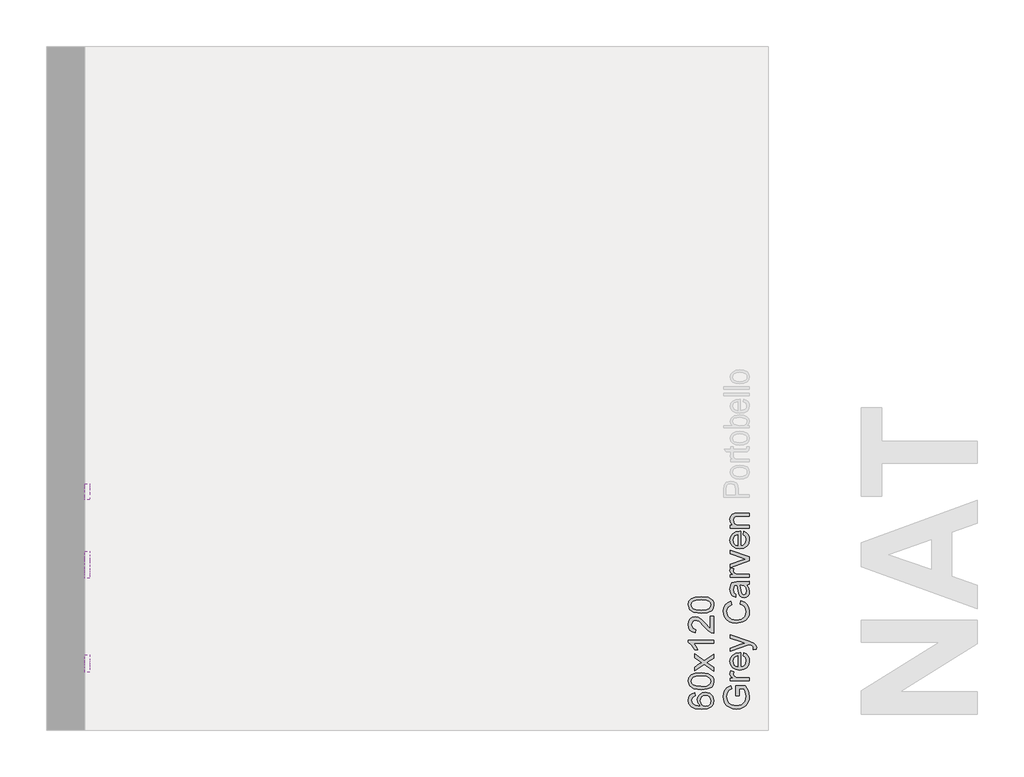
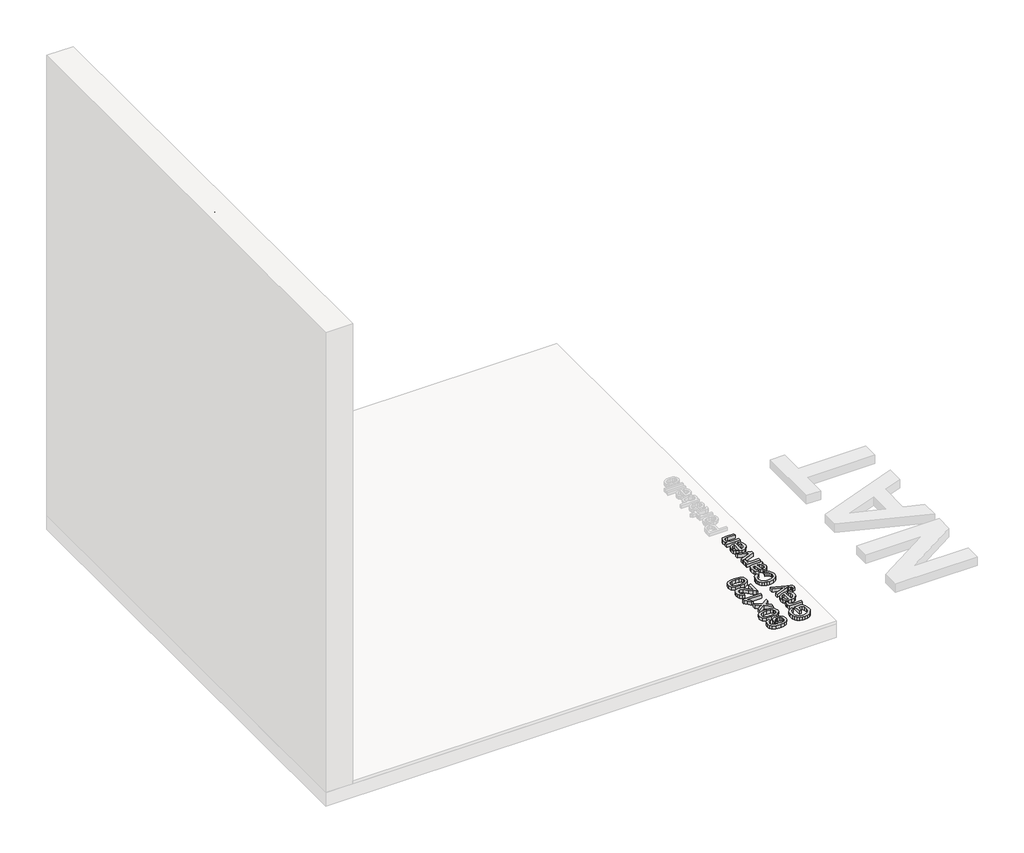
# One storey, part 7 of 12: 5 proxies.
"""IFC4 building model written with IfcOpenShell, lengths in millimetres."""

from ifc_helpers import new_model, si_unit, frame, origin, origin_with_axes, place, context, project, spatial, polyline, outline, extrude, element, save

model = new_model("IFC4")

# Units and contexts
model_context = context("Model", 3, world=origin())
ifc_project = project(units=[si_unit("LENGTHUNIT", "METRE", prefix="MILLI")], contexts=[model_context])

# Site, building, storey
site = spatial("IfcSite", under=ifc_project)
building = spatial("IfcBuilding", under=site)
storey = spatial("IfcBuildingStorey", under=building, Name="PORTOBELLO - SHOWROOM", Elevation=0.0)

# Proxies
placement = place(None, origin())
element("IfcBuildingElementProxy", 1, Name="10mm Arial", ObjectType="10mm Arial", at=placement, inside=storey, context=model_context, shape_type="SweptSolid", body=[
    extrude(outline(polyline([(-16124.8606928, 10089.718781), (-16137.4177315, 10089.718781), (-16137.4177315, 10130.529157), (-16099.8692426, 10130.529157), (-16088.0234423, 10110.3814864), (-16084.0503168, 10089.0811189), (-16085.6291437, 10074.9943042), (-16090.3656244, 10062.2625215), (-16098.0942119, 10051.6859141), (-16108.6493595, 10044.0646254), (-16121.3106315, 10039.4569034), (-16135.3575924, 10037.9209961), (-16149.5057208, 10039.4507721), (-16162.6666991, 10044.0401), (-16173.7062247, 10051.4989074), (-16181.4899946, 10061.6371221), (-16186.1069136, 10073.9856944), (-16187.6458866, 10088.0755748), (-16184.0774313, 10107.7204733), (-16174.1446174, 10121.4915227), (-16157.5286139, 10129.0821545), (-16154.2667269, 10117.5061344), (-16165.8795352, 10111.779438), (-16172.5749875, 10101.9937769), (-16175.0888478, 10087.8793711), (-16172.3787838, 10071.8029279), (-16165.2663986, 10060.8645699), (-16155.5911021, 10054.4021095), (-16135.8726272, 10050.4780349), (-16113.9836484, 10055.1991871), (-16100.8870494, 10068.9334483), (-16096.6073555, 10088.0755748), (-16099.8324544, 10105.255664), (-16106.7118477, 10117.9721183), (-16124.8606928, 10117.9721183), (-16124.8606928, 10089.718781)])), origin_with_axes(), (0.0, 0.0, 1.0), 20.0),
    extrude(outline(polyline([(-16085.6199466, 10149.3647152), (-16159.3925494, 10149.3647152), (-16159.3925494, 10160.3521241), (-16148.4787169, 10160.3521241), (-16158.5341581, 10168.1512224), (-16160.9621792, 10175.9993716), (-16157.0871555, 10188.6054613), (-16145.8299665, 10184.4116066), (-16148.4051405, 10175.5824387), (-16145.9280684, 10168.4823162), (-16139.0609378, 10163.9573677), (-16124.3947089, 10161.9217539), (-16085.6199466, 10161.9217539), (-16085.6199466, 10149.3647152)])), origin_with_axes(), (0.0, 0.0, 1.0), 20.0),
    extrude(outline(polyline([(-16107.5947645, 10248.1042427), (-16106.0251346, 10260.4160268), (-16096.748377, 10255.9799831), (-16089.8138014, 10248.9013203), (-16085.4911879, 10239.3394541), (-16084.0503168, 10227.4538), (-16086.5365859, 10212.7201261), (-16093.9953934, 10201.3832293), (-16105.9423612, 10194.1543481), (-16121.8931113, 10191.744721), (-16138.3803561, 10194.1788736), (-16150.7105343, 10201.4813312), (-16158.399268, 10212.6649438), (-16160.9621792, 10226.7425615), (-16158.4053994, 10240.3817865), (-16150.7350598, 10251.2802906), (-16138.429407, 10258.4263983), (-16121.9666877, 10260.8084343), (-16118.5821734, 10260.7348579), (-16118.5821734, 10204.3017598), (-16109.1827884, 10206.4753292), (-16102.2727383, 10211.5245096), (-16098.0237012, 10218.8116388), (-16096.6073555, 10227.6990547), (-16099.2315804, 10240.0108388), (-16107.5947645, 10248.1042427)]), holes=[polyline([(-16131.1392121, 10204.3017598), (-16131.1392121, 10248.2513955), (-16142.5190285, 10243.2236749), (-16146.9336125, 10235.9028232), (-16148.4051405, 10226.6935106), (-16143.7085137, 10211.230204), (-16138.2178749, 10206.3649646), (-16131.1392121, 10204.3017598)])]), origin_with_axes(), (0.0, 0.0, 1.0), 20.0),
    extrude(outline(polyline([(-16057.3666094, 10273.365473), (-16069.4576643, 10271.7958432), (-16068.3540183, 10278.1724644), (-16069.7397072, 10284.1321527), (-16073.6024681, 10287.7864472), (-16082.8485689, 10291.2200125), (-16085.8897267, 10292.2010312), (-16159.3925494, 10265.5173238), (-16159.3925494, 10278.7365501), (-16118.4104951, 10292.9122697), (-16102.0274836, 10297.8418884), (-16116.5220342, 10302.7715072), (-16159.3925494, 10317.3151087), (-16159.3925494, 10330.4362332), (-16083.854113, 10304.7580699), (-16067.4711015, 10298.0871431), (-16058.6174082, 10290.8030796), (-16055.7969795, 10281.041944), (-16057.3666094, 10273.365473)])), origin_with_axes(), (0.0, 0.0, 1.0), 20.0),
    extrude(outline(polyline([(-16121.3290256, 10452.3032755), (-16118.0916641, 10464.8603142), (-16103.4591577, 10459.0661728), (-16092.7691201, 10449.9733562), (-16086.2300176, 10438.0294541), (-16084.0503168, 10423.6820562), (-16085.6996544, 10409.1169949), (-16090.6476672, 10397.5501719), (-16098.722677, 10388.6842158), (-16109.7530055, 10382.2217554), (-16136.6083911, 10376.9610429), (-16151.2562259, 10378.4478993), (-16163.9052352, 10382.9084684), (-16174.1538144, 10390.1097585), (-16181.6003592, 10399.8187775), (-16186.1345047, 10411.3334839), (-16187.6458866, 10423.9518364), (-16185.6899807, 10437.71982), (-16179.8222628, 10449.1027021), (-16170.4044838, 10457.7448633), (-16157.7983941, 10463.2906844), (-16154.8062872, 10450.7336456), (-16170.2450682, 10440.4329498), (-16175.0888478, 10423.4613271), (-16169.7177707, 10403.8164285), (-16155.2967965, 10392.718655), (-16136.6329166, 10389.5180816), (-16115.0014553, 10393.3072662), (-16101.181355, 10405.1040155), (-16096.6073555, 10422.4312575), (-16098.1647226, 10432.9128286), (-16102.836824, 10441.6469603), (-16110.5746086, 10448.2412451), (-16121.3290256, 10452.3032755)])), origin_with_axes(), (0.0, 0.0, 1.0), 20.0),
    extrude(outline(polyline([(-16095.0377257, 10527.6455081), (-16086.5273889, 10515.468614), (-16084.0503168, 10502.0163958), (-16085.5402388, 10491.5225618), (-16090.0100051, 10483.7817115), (-16096.7974279, 10479.0084426), (-16105.2403197, 10477.417353), (-16115.1731336, 10479.8208487), (-16122.3836207, 10486.1361563), (-16126.503899, 10494.928536), (-16128.3923599, 10505.7933176), (-16132.708842, 10527.5719317), (-16135.5047452, 10527.6455081), (-16144.7753714, 10524.1874173), (-16148.4051405, 10510.3060034), (-16145.989382, 10497.6018118), (-16137.4177315, 10491.5440216), (-16138.9873614, 10478.9869829), (-16151.2500946, 10484.4193737), (-16158.4360562, 10495.3577316), (-16160.9621792, 10511.9246842), (-16158.7303618, 10527.142736), (-16153.1262927, 10535.738912), (-16144.6036932, 10539.5894102), (-16133.6162843, 10540.2025469), (-16117.9935622, 10540.2025469), (-16096.1781599, 10540.840209), (-16085.6199466, 10543.3418065), (-16085.6199466, 10530.7847678), (-16095.0377257, 10527.6455081)]), holes=[polyline([(-16120.1518032, 10527.6455081), (-16116.301305, 10507.3874729), (-16114.2656913, 10496.584005), (-16110.9547533, 10491.6911744), (-16106.1232365, 10489.9743918), (-16099.3296823, 10493.7145254), (-16096.6073555, 10504.6896716), (-16099.6117252, 10517.3938632), (-16106.8835259, 10525.5853689), (-16116.5956106, 10527.5719317), (-16120.1518032, 10527.6455081)])]), origin_with_axes(), (0.0, 0.0, 1.0), 20.0),
    extrude(outline(polyline([(-16085.6199466, 10557.4684752), (-16159.3925494, 10557.4684752), (-16159.3925494, 10568.4558841), (-16148.4787169, 10568.4558841), (-16158.5341581, 10576.2549824), (-16160.9621792, 10584.1031316), (-16157.0871555, 10596.7092213), (-16145.8299665, 10592.5153666), (-16148.4051405, 10583.6861987), (-16145.9280684, 10576.5860762), (-16139.0609378, 10572.0611276), (-16124.3947089, 10570.0255139), (-16085.6199466, 10570.0255139), (-16085.6199466, 10557.4684752)])), origin_with_axes(), (0.0, 0.0, 1.0), 20.0),
    extrude(outline(polyline([(-16085.6199466, 10622.7062156), (-16159.3925494, 10596.7092213), (-16159.3925494, 10609.9774986), (-16115.197659, 10625.722848), (-16100.3352264, 10630.456263), (-16114.3637932, 10635.0915761), (-16159.3925494, 10650.9105019), (-16159.3925494, 10664.2033047), (-16085.6199466, 10638.5741924), (-16085.6199466, 10622.7062156)])), origin_with_axes(), (0.0, 0.0, 1.0), 20.0),
    extrude(outline(polyline([(-16107.5947645, 10726.8413457), (-16106.0251346, 10739.1531298), (-16096.748377, 10734.7170861), (-16089.8138014, 10727.6384234), (-16085.4911879, 10718.0765572), (-16084.0503168, 10706.1909031), (-16086.5365859, 10691.4572292), (-16093.9953934, 10680.1203324), (-16105.9423612, 10672.8914511), (-16121.8931113, 10670.4818241), (-16138.3803561, 10672.9159766), (-16150.7105343, 10680.2184342), (-16158.399268, 10691.4020469), (-16160.9621792, 10705.4796646), (-16158.4053994, 10719.1188895), (-16150.7350598, 10730.0173936), (-16138.429407, 10737.1635014), (-16121.9666877, 10739.5455373), (-16118.5821734, 10739.4719609), (-16118.5821734, 10683.0388628), (-16109.1827884, 10685.2124323), (-16102.2727383, 10690.2616127), (-16098.0237012, 10697.5487419), (-16096.6073555, 10706.4361577), (-16099.2315804, 10718.7479418), (-16107.5947645, 10726.8413457)]), holes=[polyline([(-16131.1392121, 10683.0388628), (-16131.1392121, 10726.9884985), (-16142.5190285, 10721.9607779), (-16146.9336125, 10714.6399262), (-16148.4051405, 10705.4306136), (-16143.7085137, 10689.9673071), (-16138.2178749, 10685.1020677), (-16131.1392121, 10683.0388628)])]), origin_with_axes(), (0.0, 0.0, 1.0), 20.0),
    extrude(outline(polyline([(-16085.6199466, 10752.1025761), (-16159.3925494, 10752.1025761), (-16159.3925494, 10764.6596148), (-16149.0918535, 10764.6596148), (-16157.9945978, 10774.2613349), (-16160.9621792, 10787.3701967), (-16158.5709463, 10799.2282597), (-16152.2924269, 10807.3216636), (-16143.0585888, 10811.0863226), (-16130.918483, 10811.7485102), (-16085.6199466, 10811.7485102), (-16085.6199466, 10799.1914715), (-16129.2262258, 10799.1914715), (-16140.336262, 10797.7444689), (-16146.2101112, 10792.6309092), (-16148.4051405, 10784.0102078), (-16143.4755217, 10770.3863112), (-16136.3324796, 10766.0912889), (-16124.7625909, 10764.6596148), (-16085.6199466, 10764.6596148), (-16085.6199466, 10752.1025761)])), origin_with_axes(), (0.0, 0.0, 1.0), 20.0),
])
element("IfcBuildingElementProxy", 2, Name="10mm Arial", ObjectType="10mm Arial", at=placement, inside=storey, context=model_context, shape_type="SweptSolid", body=[
    extrude(outline(polyline([(10086.3617789, 2555.4303365), (10086.3617789, 2567.9873753), (10127.1721549, 2567.9873753), (10127.1721549, 2530.4388863), (10107.0244843, 2518.593086), (10085.7241168, 2514.6199605), (10071.6373021, 2516.1987874), (10058.9055194, 2520.9352681), (10048.328912, 2528.6638557), (10040.7076233, 2539.2190032), (10036.0999014, 2551.8802752), (10034.563994, 2565.9272361), (10036.09377, 2580.0753645), (10040.6830979, 2593.2363429), (10048.1419053, 2604.2758684), (10058.28012, 2612.0596383), (10070.6286923, 2616.6765573), (10084.7185727, 2618.2155303), (10104.3634712, 2614.647075), (10118.1345206, 2604.7142611), (10125.7251524, 2588.0982577), (10114.1491323, 2584.8363706), (10108.4224359, 2596.449179), (10098.6367748, 2603.1446313), (10084.522369, 2605.6584916), (10068.4459258, 2602.9484275), (10057.5075678, 2595.8360423), (10051.0451074, 2586.1607458), (10047.1210328, 2566.4422709), (10051.8421851, 2544.5532922), (10065.5764462, 2531.4566931), (10084.7185727, 2527.1769993), (10101.8986619, 2530.4020981), (10114.6151162, 2537.2814914), (10114.6151162, 2555.4303365), (10086.3617789, 2555.4303365)])), frame((-18710.0482305, 0.0, 0.0), z_axis=(1.0, 0.0, 0.0), x_axis=(0.0, 1.0, 0.0)), (0.0, 0.0, 1.0), 20.0),
    extrude(outline(polyline([(10146.0077131, 2516.1895903), (10146.0077131, 2589.9621931), (10156.995122, 2589.9621931), (10156.995122, 2579.0483606), (10164.7942203, 2589.1038018), (10172.6423695, 2591.531823), (10185.2484592, 2587.6567993), (10181.0546045, 2576.3996102), (10172.2254366, 2578.9747842), (10165.1253141, 2576.4977121), (10160.6003656, 2569.6305815), (10158.5647519, 2554.9643526), (10158.5647519, 2516.1895903), (10146.0077131, 2516.1895903)])), frame((-18710.0482305, 0.0, 0.0), z_axis=(1.0, 0.0, 0.0), x_axis=(0.0, 1.0, 0.0)), (0.0, 0.0, 1.0), 20.0),
    extrude(outline(polyline([(10244.7472406, 2538.1644082), (10257.0590247, 2536.5947783), (10252.622981, 2527.3180207), (10245.5443183, 2520.3834451), (10235.9824521, 2516.0608316), (10224.0967979, 2514.6199605), (10209.363124, 2517.1062296), (10198.0262272, 2524.5650371), (10190.797346, 2536.5120049), (10188.3877189, 2552.4627551), (10190.8218715, 2568.9499998), (10198.1243291, 2581.280178), (10209.3079417, 2588.9689117), (10223.3855594, 2591.531823), (10237.0247844, 2588.9750431), (10247.9232885, 2581.3047035), (10255.0693962, 2568.9990508), (10257.4514322, 2552.5363315), (10257.3778558, 2549.1518171), (10200.9447577, 2549.1518171), (10203.1183272, 2539.7524321), (10208.1675075, 2532.842382), (10215.4546367, 2528.5933449), (10224.3420526, 2527.1769993), (10236.6538367, 2529.8012242), (10244.7472406, 2538.1644082)]), holes=[polyline([(10200.9447577, 2561.7088559), (10244.8943934, 2561.7088559), (10239.8666728, 2573.0886723), (10232.5458211, 2577.5032562), (10223.3365085, 2578.9747842), (10207.8732019, 2574.2781574), (10203.0079626, 2568.7875186), (10200.9447577, 2561.7088559)])]), frame((-18710.0482305, 0.0, 0.0), z_axis=(1.0, 0.0, 0.0), x_axis=(0.0, 1.0, 0.0)), (0.0, 0.0, 1.0), 20.0),
    extrude(outline(polyline([(10270.0084709, 2487.9362531), (10268.4388411, 2500.027308), (10274.8154623, 2498.923662), (10280.7751507, 2500.3093509), (10284.4294451, 2504.1721118), (10287.8630104, 2513.4182126), (10288.8440291, 2516.4593705), (10262.1603217, 2589.9621931), (10275.3795481, 2589.9621931), (10289.5552676, 2548.9801388), (10294.4848863, 2532.5971273), (10299.4145051, 2547.0916779), (10313.9581066, 2589.9621931), (10327.0792311, 2589.9621931), (10301.4010679, 2514.4237568), (10294.730141, 2498.0407452), (10287.4460775, 2489.1870519), (10277.6849419, 2486.3666233), (10270.0084709, 2487.9362531)])), frame((-18710.0482305, 0.0, 0.0), z_axis=(1.0, 0.0, 0.0), x_axis=(0.0, 1.0, 0.0)), (0.0, 0.0, 1.0), 20.0),
    extrude(outline(polyline([(10448.9462734, 2551.8986693), (10461.5033122, 2548.6613078), (10455.7091707, 2534.0288014), (10446.6163541, 2523.3387638), (10434.672452, 2516.7996613), (10420.3250542, 2514.6199605), (10405.7599928, 2516.2692981), (10394.1931698, 2521.2173109), (10385.3272137, 2529.2923207), (10378.8647533, 2540.3226492), (10373.6040408, 2567.1780349), (10375.0908972, 2581.8258696), (10379.5514664, 2594.4748789), (10386.7527564, 2604.7234582), (10396.4617754, 2612.1700029), (10407.9764819, 2616.7041485), (10420.5948343, 2618.2155303), (10434.362818, 2616.2596244), (10445.7457, 2610.3919066), (10454.3878612, 2600.9741275), (10459.9336823, 2588.3680378), (10447.3766435, 2585.3759309), (10437.0759477, 2600.814712), (10420.104325, 2605.6584916), (10400.4594264, 2600.2874144), (10389.3616529, 2585.8664402), (10386.1610795, 2567.2025603), (10389.9502641, 2545.571099), (10401.7470134, 2531.7509987), (10419.0742554, 2527.1769993), (10429.5558266, 2528.7343664), (10438.2899583, 2533.4064677), (10444.884243, 2541.1442523), (10448.9462734, 2551.8986693)])), frame((-18710.0482305, 0.0, 0.0), z_axis=(1.0, 0.0, 0.0), x_axis=(0.0, 1.0, 0.0)), (0.0, 0.0, 1.0), 20.0),
    extrude(outline(polyline([(10524.288506, 2525.6073694), (10512.111612, 2517.0970326), (10498.6593937, 2514.6199605), (10488.1655598, 2516.1098826), (10480.4247094, 2520.5796488), (10475.6514406, 2527.3670716), (10474.0603509, 2535.8099634), (10476.4638466, 2545.7427773), (10482.7791542, 2552.9532644), (10491.5715339, 2557.0735427), (10502.4363155, 2558.9620036), (10524.2149296, 2563.2784857), (10524.288506, 2566.0743889), (10520.8304152, 2575.3450152), (10506.9490013, 2578.9747842), (10494.2448097, 2576.5590258), (10488.1870195, 2567.9873753), (10475.6299808, 2569.5570051), (10481.0623716, 2581.8197383), (10492.0007296, 2589.0056999), (10508.5676821, 2591.531823), (10523.7857339, 2589.3000055), (10532.3819099, 2583.6959365), (10536.2324081, 2575.1733369), (10536.8455448, 2564.185928), (10536.8455448, 2548.5632059), (10537.4832069, 2526.7478036), (10539.9848045, 2516.1895903), (10527.4277657, 2516.1895903), (10524.288506, 2525.6073694)]), holes=[polyline([(10524.288506, 2550.721447), (10504.0304708, 2546.8709487), (10493.2270029, 2544.835335), (10488.3341723, 2541.5243971), (10486.6173897, 2536.6928802), (10490.3575233, 2529.899326), (10501.3326695, 2527.1769993), (10514.0368611, 2530.1813689), (10522.2283668, 2537.4531697), (10524.2149296, 2547.1652543), (10524.288506, 2550.721447)])]), frame((-18710.0482305, 0.0, 0.0), z_axis=(1.0, 0.0, 0.0), x_axis=(0.0, 1.0, 0.0)), (0.0, 0.0, 1.0), 20.0),
    extrude(outline(polyline([(10554.1114731, 2516.1895903), (10554.1114731, 2589.9621931), (10565.098882, 2589.9621931), (10565.098882, 2579.0483606), (10572.8979803, 2589.1038018), (10580.7461295, 2591.531823), (10593.3522192, 2587.6567993), (10589.1583645, 2576.3996102), (10580.3291966, 2578.9747842), (10573.2290741, 2576.4977121), (10568.7041256, 2569.6305815), (10566.6685118, 2554.9643526), (10566.6685118, 2516.1895903), (10554.1114731, 2516.1895903)])), frame((-18710.0482305, 0.0, 0.0), z_axis=(1.0, 0.0, 0.0), x_axis=(0.0, 1.0, 0.0)), (0.0, 0.0, 1.0), 20.0),
    extrude(outline(polyline([(10619.3492136, 2516.1895903), (10593.3522192, 2589.9621931), (10606.6204965, 2589.9621931), (10622.3658459, 2545.7673028), (10627.0992609, 2530.9048701), (10631.7345741, 2544.9334369), (10647.5534999, 2589.9621931), (10660.8463026, 2589.9621931), (10635.2171903, 2516.1895903), (10619.3492136, 2516.1895903)])), frame((-18710.0482305, 0.0, 0.0), z_axis=(1.0, 0.0, 0.0), x_axis=(0.0, 1.0, 0.0)), (0.0, 0.0, 1.0), 20.0),
    extrude(outline(polyline([(10723.4843437, 2538.1644082), (10735.7961278, 2536.5947783), (10731.360084, 2527.3180207), (10724.2814213, 2520.3834451), (10714.7195551, 2516.0608316), (10702.833901, 2514.6199605), (10688.1002271, 2517.1062296), (10676.7633303, 2524.5650371), (10669.5344491, 2536.5120049), (10667.124822, 2552.4627551), (10669.5589745, 2568.9499998), (10676.8614321, 2581.280178), (10688.0450448, 2588.9689117), (10702.1226625, 2591.531823), (10715.7618874, 2588.9750431), (10726.6603915, 2581.3047035), (10733.8064993, 2568.9990508), (10736.1885352, 2552.5363315), (10736.1149588, 2549.1518171), (10679.6818608, 2549.1518171), (10681.8554302, 2539.7524321), (10686.9046106, 2532.842382), (10694.1917398, 2528.5933449), (10703.0791557, 2527.1769993), (10715.3909398, 2529.8012242), (10723.4843437, 2538.1644082)]), holes=[polyline([(10679.6818608, 2561.7088559), (10723.6314965, 2561.7088559), (10718.6037759, 2573.0886723), (10711.2829241, 2577.5032562), (10702.0736115, 2578.9747842), (10686.610305, 2574.2781574), (10681.7450656, 2568.7875186), (10679.6818608, 2561.7088559)])]), frame((-18710.0482305, 0.0, 0.0), z_axis=(1.0, 0.0, 0.0), x_axis=(0.0, 1.0, 0.0)), (0.0, 0.0, 1.0), 20.0),
    extrude(outline(polyline([(10748.745574, 2516.1895903), (10748.745574, 2589.9621931), (10761.3026128, 2589.9621931), (10761.3026128, 2579.6614972), (10770.9043328, 2588.5642415), (10784.0131946, 2591.531823), (10795.8712576, 2589.14059), (10803.9646615, 2582.8620706), (10807.7293206, 2573.6282325), (10808.3915081, 2561.4881267), (10808.3915081, 2516.1895903), (10795.8344694, 2516.1895903), (10795.8344694, 2559.7958695), (10794.3874669, 2570.9059058), (10789.2739071, 2576.7797549), (10780.6532057, 2578.9747842), (10767.0293092, 2574.0451655), (10762.7342869, 2566.9021234), (10761.3026128, 2555.3322346), (10761.3026128, 2516.1895903), (10748.745574, 2516.1895903)])), frame((-18710.0482305, 0.0, 0.0), z_axis=(1.0, 0.0, 0.0), x_axis=(0.0, 1.0, 0.0)), (0.0, 0.0, 1.0), 20.0),
])
element("IfcBuildingElementProxy", 3, Name="10mm Arial", ObjectType="10mm Arial", at=placement, inside=storey, context=model_context, shape_type="SweptSolid", body=[
    extrude(outline(polyline([(10098.9188177, 2454.9621931), (10086.3617789, 2453.3925633), (10081.6038385, 2463.8649374), (10069.0222742, 2469.0888617), (10057.6915088, 2466.0477039), (10049.1198583, 2454.6310993), (10045.5514029, 2432.2516113), (10056.624651, 2442.2702643), (10070.3466494, 2445.544414), (10081.947195, 2443.3064652), (10091.6838051, 2436.5926188), (10098.287287, 2426.3348425), (10100.4884476, 2413.4651041), (10096.3436437, 2396.1378621), (10084.9393019, 2383.8751289), (10068.482714, 2379.6199605), (10054.2364837, 2382.4403891), (10042.8903898, 2390.901675), (10035.4683706, 2405.837684), (10032.9943642, 2428.082282), (10035.7412164, 2453.0921263), (10043.9817731, 2470.1925077), (10055.2328308, 2478.7825523), (10069.8070892, 2481.6459005), (10080.8251549, 2479.8739355), (10089.6481914, 2474.5580407), (10095.828609, 2466.1151489), (10098.9188177, 2454.9621931)]), holes=[polyline([(10045.5514029, 2413.6613078), (10048.4576707, 2402.7842635), (10056.1831926, 2394.8870633), (10067.5016953, 2392.1769993), (10075.7882373, 2393.5810822), (10082.3028143, 2397.7933311), (10086.5242602, 2404.415207), (10087.9314088, 2413.0481711), (10086.5426543, 2421.3347131), (10082.3763907, 2427.6530863), (10075.7514491, 2431.653803), (10066.9866605, 2432.9873753), (10051.7931341, 2427.6530863), (10047.1118357, 2421.4879972), (10045.5514029, 2413.6613078)])]), frame((-18710.0482305, 0.0, 0.0), z_axis=(1.0, 0.0, 0.0), x_axis=(0.0, 1.0, 0.0)), (0.0, 0.0, 1.0), 20.0),
    extrude(outline(polyline([(10111.4758565, 2430.608405), (10115.1669392, 2459.5116671), (10126.1298226, 2476.1767215), (10144.4380832, 2481.6459005), (10159.1043121, 2478.4085389), (10169.2333297, 2469.076599), (10175.1194416, 2454.2141664), (10177.40031, 2430.608405), (10173.7460155, 2401.8277703), (10162.8199203, 2385.1259277), (10154.5885606, 2380.9964523), (10144.4380832, 2379.6199605), (10131.3905352, 2382.0111935), (10121.4822467, 2389.1848924), (10113.977454, 2406.1749092), (10111.4758565, 2430.608405)]), holes=[polyline([(10124.0328952, 2430.6329305), (10125.5044232, 2410.880733), (10129.9190072, 2399.4488), (10136.4918322, 2393.9949495), (10144.4380832, 2392.1769993), (10152.3843343, 2394.0010808), (10158.9571593, 2399.4733255), (10163.3717433, 2410.9113899), (10164.8432712, 2430.6329305), (10163.4207942, 2449.9406039), (10159.1533631, 2461.4614417), (10152.5928008, 2467.1820067), (10144.2909304, 2469.0888617), (10136.4305185, 2467.4088673), (10130.1152109, 2462.3688839), (10125.5534742, 2450.1306762), (10124.0328952, 2430.6329305)])]), frame((-18710.0482305, 0.0, 0.0), z_axis=(1.0, 0.0, 0.0), x_axis=(0.0, 1.0, 0.0)), (0.0, 0.0, 1.0), 20.0),
    extrude(outline(polyline([(10183.6788294, 2381.1895903), (10210.5096896, 2418.2966209), (10185.2484592, 2454.9621931), (10200.3070956, 2454.9621931), (10212.4962524, 2437.2793319), (10218.210686, 2428.9651988), (10223.1648302, 2435.7832784), (10237.0462442, 2454.9621931), (10252.1539314, 2454.9621931), (10225.6173768, 2418.2720955), (10251.1729128, 2381.1895903), (10236.089751, 2381.1895903), (10220.6877581, 2403.5077647), (10217.891855, 2407.6035176), (10198.7865167, 2381.1895903), (10183.6788294, 2381.1895903)])), frame((-18710.0482305, 0.0, 0.0), z_axis=(1.0, 0.0, 0.0), x_axis=(0.0, 1.0, 0.0)), (0.0, 0.0, 1.0), 20.0),
    extrude(outline(polyline([(10306.1099574, 2381.1895903), (10293.5529186, 2381.1895903), (10293.5529186, 2459.4748789), (10281.6580674, 2451.0013303), (10268.4388411, 2444.6614972), (10268.4388411, 2456.531823), (10286.8452036, 2468.2795213), (10298.0165535, 2481.6459005), (10306.1099574, 2481.6459005), (10306.1099574, 2381.1895903)])), frame((-18710.0482305, 0.0, 0.0), z_axis=(1.0, 0.0, 0.0), x_axis=(0.0, 1.0, 0.0)), (0.0, 0.0, 1.0), 20.0),
    extrude(outline(polyline([(10400.2877482, 2393.7466291), (10400.2877482, 2381.1895903), (10334.3632946, 2381.1895903), (10335.7121953, 2389.84708), (10343.351878, 2403.1766709), (10359.0849647, 2417.7325352), (10380.7532142, 2438.652758), (10386.1610795, 2452.8775285), (10381.0475198, 2464.3922349), (10367.6934034, 2469.0888617), (10353.7752012, 2464.5025995), (10348.4899632, 2451.8229334), (10335.9329245, 2453.3925633), (10338.977148, 2465.5388005), (10345.55917, 2474.4108879), (10355.335634, 2479.8371473), (10367.9631835, 2481.6459005), (10380.6827035, 2479.6348123), (10390.4407734, 2473.6015475), (10396.6487821, 2464.5884386), (10398.7181183, 2453.6378179), (10396.4863009, 2441.730704), (10389.0673473, 2429.4189199), (10371.0779177, 2412.2143053), (10356.6324181, 2400.1355131), (10350.9670353, 2393.7466291), (10400.2877482, 2393.7466291)])), frame((-18710.0482305, 0.0, 0.0), z_axis=(1.0, 0.0, 0.0), x_axis=(0.0, 1.0, 0.0)), (0.0, 0.0, 1.0), 20.0),
    extrude(outline(polyline([(10412.8447869, 2430.608405), (10416.5358696, 2459.5116671), (10427.4987531, 2476.1767215), (10445.8070137, 2481.6459005), (10460.4732426, 2478.4085389), (10470.6022602, 2469.076599), (10476.4883721, 2454.2141664), (10478.7692405, 2430.608405), (10475.114946, 2401.8277703), (10464.1888507, 2385.1259277), (10455.9574911, 2380.9964523), (10445.8070137, 2379.6199605), (10432.7594656, 2382.0111935), (10422.8511772, 2389.1848924), (10415.3463845, 2406.1749092), (10412.8447869, 2430.608405)]), holes=[polyline([(10425.4018257, 2430.6329305), (10426.8733537, 2410.880733), (10431.2879376, 2399.4488), (10437.8607626, 2393.9949495), (10445.8070137, 2392.1769993), (10453.7532648, 2394.0010808), (10460.3260898, 2399.4733255), (10464.7406737, 2410.9113899), (10466.2122017, 2430.6329305), (10464.7897246, 2449.9406039), (10460.5222935, 2461.4614417), (10453.9617313, 2467.1820067), (10445.6598609, 2469.0888617), (10437.7994489, 2467.4088673), (10431.4841413, 2462.3688839), (10426.9224046, 2450.1306762), (10425.4018257, 2430.6329305)])]), frame((-18710.0482305, 0.0, 0.0), z_axis=(1.0, 0.0, 0.0), x_axis=(0.0, 1.0, 0.0)), (0.0, 0.0, 1.0), 20.0),
])
element("IfcBuildingElementProxy", 4, Name="10mm Arial", ObjectType="10mm Arial", at=placement, inside=storey, context=model_context, shape_type="SweptSolid", body=[
    extrude(outline(polyline([(-16299.3925494, 10102.2758198), (-16297.8229195, 10089.718781), (-16308.2952937, 10084.9608406), (-16313.519218, 10072.3792763), (-16310.4780602, 10061.0485109), (-16299.0614556, 10052.4768604), (-16276.6819675, 10048.908405), (-16286.7006205, 10059.9816531), (-16289.9747703, 10073.7036515), (-16287.7368215, 10085.3041971), (-16281.0229751, 10095.0408072), (-16270.7651988, 10101.644289), (-16257.8954603, 10103.8454496), (-16240.5682184, 10099.7006458), (-16228.3054852, 10088.296304), (-16224.0503168, 10071.8397161), (-16226.8707454, 10057.5934858), (-16235.3320313, 10046.2473919), (-16250.2680403, 10038.8253727), (-16272.5126383, 10036.3513663), (-16297.5224826, 10039.0982185), (-16314.622864, 10047.3387752), (-16323.2129086, 10058.5898329), (-16326.0762568, 10073.1640912), (-16324.3042918, 10084.182157), (-16318.988397, 10093.0051935), (-16310.5455052, 10099.185611), (-16299.3925494, 10102.2758198)]), holes=[polyline([(-16258.0916641, 10048.908405), (-16247.2146197, 10051.8146728), (-16239.3174196, 10059.5401947), (-16236.6073555, 10070.8586974), (-16238.0114385, 10079.1452393), (-16242.2236873, 10085.6598163), (-16248.8455632, 10089.8812622), (-16257.4785274, 10091.2884109), (-16265.7650693, 10089.8996563), (-16272.0834426, 10085.7333927), (-16276.0841593, 10079.1084511), (-16277.4177315, 10070.3436626), (-16272.0834426, 10055.1501362), (-16265.9183535, 10050.4688378), (-16258.0916641, 10048.908405)])]), origin_with_axes(), (0.0, 0.0, 1.0), 20.0),
    extrude(outline(polyline([(-16275.0387613, 10114.8328586), (-16303.9420234, 10118.5239412), (-16320.6070778, 10129.4868247), (-16326.0762568, 10147.7950853), (-16322.8388952, 10162.4613142), (-16313.5069553, 10172.5903318), (-16298.6445227, 10178.4764437), (-16275.0387613, 10180.7573121), (-16246.2581265, 10177.1030176), (-16229.556284, 10166.1769224), (-16225.4268086, 10157.9455627), (-16224.0503168, 10147.7950853), (-16226.4415497, 10134.7475372), (-16233.6152486, 10124.8392488), (-16250.6052655, 10117.3344561), (-16275.0387613, 10114.8328586)]), holes=[polyline([(-16275.0632868, 10127.3898973), (-16255.3110893, 10128.8614253), (-16243.8791563, 10133.2760093), (-16238.4253057, 10139.8488342), (-16236.6073555, 10147.7950853), (-16238.4314371, 10155.7413364), (-16243.9036818, 10162.3141614), (-16255.3417461, 10166.7287454), (-16275.0632868, 10168.2002733), (-16294.3709601, 10166.7777963), (-16305.891798, 10162.5103651), (-16311.612363, 10155.9498029), (-16313.519218, 10147.6479325), (-16311.8392235, 10139.7875206), (-16306.7992402, 10133.472213), (-16294.5610325, 10128.9104762), (-16275.0632868, 10127.3898973)])]), origin_with_axes(), (0.0, 0.0, 1.0), 20.0),
    extrude(outline(polyline([(-16225.6199466, 10187.0358315), (-16262.7269772, 10213.8666917), (-16299.3925494, 10188.6054613), (-16299.3925494, 10203.6640977), (-16281.7096881, 10215.8532544), (-16273.3955551, 10221.5676881), (-16280.2136347, 10226.5218323), (-16299.3925494, 10240.4032463), (-16299.3925494, 10255.5109335), (-16262.7024517, 10228.9743789), (-16225.6199466, 10254.5299149), (-16225.6199466, 10239.4467531), (-16247.938121, 10224.0447602), (-16252.0338739, 10221.248857), (-16225.6199466, 10202.1435188), (-16225.6199466, 10187.0358315)])), origin_with_axes(), (0.0, 0.0, 1.0), 20.0),
    extrude(outline(polyline([(-16225.6199466, 10309.4669595), (-16225.6199466, 10296.9099207), (-16303.9052352, 10296.9099207), (-16295.4316866, 10285.0150695), (-16289.0918535, 10271.7958432), (-16300.9621792, 10271.7958432), (-16312.7098776, 10290.2022057), (-16326.0762568, 10301.3735556), (-16326.0762568, 10309.4669595), (-16225.6199466, 10309.4669595)])), origin_with_axes(), (0.0, 0.0, 1.0), 20.0),
    extrude(outline(polyline([(-16238.1769854, 10403.6447502), (-16225.6199466, 10403.6447502), (-16225.6199466, 10337.7202967), (-16234.2774362, 10339.0691974), (-16247.6070272, 10346.7088801), (-16262.1628915, 10362.4419668), (-16283.0831143, 10384.1102163), (-16297.3078847, 10389.5180816), (-16308.8225912, 10384.4045219), (-16313.519218, 10371.0504055), (-16308.9329558, 10357.1322033), (-16296.2532897, 10351.8469653), (-16297.8229195, 10339.2899266), (-16309.9691567, 10342.3341501), (-16318.8412442, 10348.9161721), (-16324.2675036, 10358.6926361), (-16326.0762568, 10371.3201856), (-16324.0651685, 10384.0397056), (-16318.0319038, 10393.7977755), (-16309.0187949, 10400.0057842), (-16298.0681742, 10402.0751204), (-16286.1610603, 10399.843303), (-16273.8492762, 10392.4243494), (-16256.6446615, 10374.4349198), (-16244.5658694, 10359.9894202), (-16238.1769854, 10354.3240374), (-16238.1769854, 10403.6447502)])), origin_with_axes(), (0.0, 0.0, 1.0), 20.0),
    extrude(outline(polyline([(-16275.0387613, 10416.201789), (-16303.9420234, 10419.8928717), (-16320.6070778, 10430.8557552), (-16326.0762568, 10449.1640158), (-16322.8388952, 10463.8302447), (-16313.5069553, 10473.9592623), (-16298.6445227, 10479.8453742), (-16275.0387613, 10482.1262425), (-16246.2581265, 10478.4719481), (-16229.556284, 10467.5458528), (-16225.4268086, 10459.3144932), (-16224.0503168, 10449.1640158), (-16226.4415497, 10436.1164677), (-16233.6152486, 10426.2081793), (-16250.6052655, 10418.7033866), (-16275.0387613, 10416.201789)]), holes=[polyline([(-16275.0632868, 10428.7588278), (-16255.3110893, 10430.2303558), (-16243.8791563, 10434.6449397), (-16238.4253057, 10441.2177647), (-16236.6073555, 10449.1640158), (-16238.4314371, 10457.1102669), (-16243.9036818, 10463.6830919), (-16255.3417461, 10468.0976758), (-16275.0632868, 10469.5692038), (-16294.3709601, 10468.1467267), (-16305.891798, 10463.8792956), (-16311.612363, 10457.3187333), (-16313.519218, 10449.016863), (-16311.8392235, 10441.156451), (-16306.7992402, 10434.8411434), (-16294.5610325, 10430.2794067), (-16275.0632868, 10428.7588278)])]), origin_with_axes(), (0.0, 0.0, 1.0), 20.0),
])
element("IfcBuildingElementProxy", 5, Name="10mm Arial Narrow", ObjectType="10mm Arial Narrow", at=placement, inside=storey, context=model_context, shape_type="SweptSolid", body=[
    extrude(outline(polyline([(10863.0587071, 2516.1895903), (10863.0587071, 2616.9081941), (10894.3555918, 2616.9081941), (10910.6512933, 2615.0298734), (10922.1242794, 2605.5494302), (10926.4139579, 2588.5303214), (10924.6276495, 2576.4544958), (10919.2687243, 2566.8281021), (10909.5249354, 2560.5268436), (10894.5840362, 2558.4264242), (10872.8056688, 2558.4264242), (10872.8056688, 2516.1895903), (10863.0587071, 2516.1895903)]), holes=[polyline([(10872.8056688, 2569.7978794), (10895.7770237, 2569.7978794), (10911.6412191, 2574.3286936), (10916.6669962, 2587.9972844), (10914.1921817, 2598.1630608), (10908.2145529, 2603.9630106), (10895.5485793, 2605.5367388), (10872.8056688, 2605.5367388), (10872.8056688, 2569.7978794)])]), frame((-18710.0482305, 0.0, 0.0), z_axis=(1.0, 0.0, 0.0), x_axis=(0.0, 1.0, 0.0)), (0.0, 0.0, 1.0), 20.0),
    extrude(outline(polyline([(10934.5364259, 2552.7406965), (10936.4908948, 2569.3314721), (10942.3543014, 2581.2835569), (10951.2128681, 2588.5081115), (10962.1528173, 2590.9162964), (10972.9658528, 2588.5081115), (10981.8498023, 2581.2835569), (10987.789357, 2569.5218424), (10989.7692086, 2553.5021779), (10987.8242583, 2536.3402913), (10981.9894072, 2524.1978362), (10973.140359, 2516.9732816), (10962.1528173, 2514.5650967), (10951.2921891, 2516.9796273), (10942.4177582, 2524.2232189), (10936.506759, 2536.1816494), (10934.5364259, 2552.7406965)]), holes=[polyline([(10944.2833876, 2552.7660793), (10945.5874244, 2540.2143279), (10949.499535, 2531.3430698), (10955.3407318, 2526.0698112), (10962.4320271, 2524.3120584), (10969.1521003, 2526.0856754), (10974.8441736, 2531.4065266), (10978.7277286, 2540.2936488), (10980.022247, 2552.7660793), (10978.7182101, 2565.2797566), (10974.8060995, 2574.1383233), (10968.9649028, 2579.4115818), (10961.8736074, 2581.1693347), (10955.1059417, 2579.4020633), (10949.4233869, 2574.1002492), (10945.5683874, 2565.232164), (10944.2833876, 2552.7660793)])]), frame((-18710.0482305, 0.0, 0.0), z_axis=(1.0, 0.0, 0.0), x_axis=(0.0, 1.0, 0.0)), (0.0, 0.0, 1.0), 20.0),
    extrude(outline(polyline([(11061.2469274, 2524.3120584), (11062.871421, 2514.5650967), (11055.5104343, 2514.5650967), (11047.23567, 2516.6845532), (11042.9206089, 2522.4845031), (11041.7530041, 2537.1303283), (11041.7530041, 2579.5448411), (11033.6305361, 2579.5448411), (11033.6305361, 2582.7938283), (11032.0060424, 2577.9203475), (11024.4419941, 2579.5448411), (11018.3628344, 2577.2223229), (11014.4919707, 2570.7370398), (11012.5121191, 2555.3297332), (11012.5121191, 2516.1895903), (11002.7651575, 2516.1895903), (11002.7651575, 2589.2918027), (11012.5121191, 2589.2918027), (11012.5121191, 2579.5956065), (11018.7562664, 2588.6826176), (11025.15271, 2590.9162964), (11033.6305361, 2589.2918027), (11041.7530041, 2589.2918027), (11041.7530041, 2605.5367388), (11051.4999658, 2613.6592069), (11051.4999658, 2589.2918027), (11061.2469274, 2589.2918027), (11061.2469274, 2579.5448411), (11051.4999658, 2579.5448411), (11051.4999658, 2534.8966496), (11052.362978, 2526.9010951), (11056.9826317, 2524.3120584), (11061.2469274, 2524.3120584)])), frame((-18710.0482305, 0.0, 0.0), z_axis=(1.0, 0.0, 0.0), x_axis=(0.0, 1.0, 0.0)), (0.0, 0.0, 1.0), 20.0),
    extrude(outline(polyline([(11067.7449018, 2552.7406965), (11069.6993707, 2569.3314721), (11075.5627773, 2581.2835569), (11084.421344, 2588.5081115), (11095.3612932, 2590.9162964), (11106.1743288, 2588.5081115), (11115.0582782, 2581.2835569), (11120.997833, 2569.5218424), (11122.9776845, 2553.5021779), (11121.0327342, 2536.3402913), (11115.1978831, 2524.1978362), (11106.3488349, 2516.9732816), (11095.3612932, 2514.5650967), (11084.500665, 2516.9796273), (11075.6262341, 2524.2232189), (11069.7152349, 2536.1816494), (11067.7449018, 2552.7406965)]), holes=[polyline([(11077.4918635, 2552.7660793), (11078.7959004, 2540.2143279), (11082.7080109, 2531.3430698), (11088.5492077, 2526.0698112), (11095.640503, 2524.3120584), (11102.3605762, 2526.0856754), (11108.0526495, 2531.4065266), (11111.9362045, 2540.2936488), (11113.2307229, 2552.7660793), (11111.926686, 2565.2797566), (11108.0145754, 2574.1383233), (11102.1733787, 2579.4115818), (11095.0820834, 2581.1693347), (11088.3144176, 2579.4020633), (11082.6318628, 2574.1002492), (11078.7768633, 2565.232164), (11077.4918635, 2552.7660793)])]), frame((-18710.0482305, 0.0, 0.0), z_axis=(1.0, 0.0, 0.0), x_axis=(0.0, 1.0, 0.0)), (0.0, 0.0, 1.0), 20.0),
    extrude(outline(polyline([(11145.7205951, 2516.1895903), (11135.9736334, 2516.1895903), (11135.9736334, 2616.9081941), (11145.7205951, 2616.9081941), (11145.7205951, 2581.49931), (11153.1196558, 2588.5810868), (11162.3208891, 2590.9162964), (11175.2026158, 2586.7154574), (11184.4799973, 2573.986027), (11187.9574289, 2553.2991162), (11186.0251699, 2536.8447728), (11180.2283929, 2524.6420337), (11171.8552706, 2517.084331), (11162.1939756, 2514.5650967), (11152.8531373, 2517.1795161), (11145.7205951, 2524.9466262), (11145.7205951, 2516.1895903)]), holes=[polyline([(11145.7205951, 2553.2991162), (11147.8019775, 2536.051563), (11153.6907668, 2527.3199098), (11162.1432101, 2524.3120584), (11168.0859377, 2526.1015396), (11173.3242951, 2531.4699834), (11178.2104672, 2552.8929928), (11173.5019741, 2574.3286936), (11168.2572711, 2579.4591744), (11161.9401484, 2581.1693347), (11155.9625196, 2579.3798535), (11150.670224, 2574.0114097), (11145.7205951, 2553.2991162)])]), frame((-18710.0482305, 0.0, 0.0), z_axis=(1.0, 0.0, 0.0), x_axis=(0.0, 1.0, 0.0)), (0.0, 0.0, 1.0), 20.0),
    extrude(outline(polyline([(11239.9412244, 2538.9325009), (11249.688186, 2537.3080073), (11245.9886557, 2527.4214407), (11240.1696688, 2520.3015898), (11232.4660155, 2515.99922), (11223.1124859, 2514.5650967), (11211.5189319, 2516.9796273), (11202.3748097, 2524.2232189), (11196.4352549, 2536.0293531), (11194.4554033, 2552.1315114), (11196.4447734, 2568.7984351), (11202.4128837, 2580.9789644), (11211.4269196, 2588.4319634), (11222.5540662, 2590.9162964), (11233.2370154, 2588.51763), (11241.9845328, 2581.321631), (11247.8193838, 2569.5821264), (11249.7643342, 2553.5529433), (11249.688186, 2550.3039561), (11204.202365, 2550.3039561), (11210.2053765, 2530.8607982), (11216.1354128, 2525.9492434), (11223.2393995, 2524.3120584), (11233.4178672, 2527.967169), (11239.9412244, 2538.9325009)]), holes=[polyline([(11204.8623155, 2560.0509178), (11239.9412244, 2560.0509178), (11235.6769287, 2574.3160023), (11229.8515961, 2579.4560016), (11222.6302144, 2581.1693347), (11210.4211296, 2575.4582244), (11204.8623155, 2560.0509178)])]), frame((-18710.0482305, 0.0, 0.0), z_axis=(1.0, 0.0, 0.0), x_axis=(0.0, 1.0, 0.0)), (0.0, 0.0, 1.0), 20.0),
    extrude(outline(polyline([(-18690.0482305, 11272.4310966), (-18690.0482305, 11262.6841349), (-18710.0482305, 11262.6841349), (-18710.0482305, 11272.4310966), (-18690.0482305, 11272.4310966)])), frame((0.0, 0.0, 2516.1895903), z_axis=(0.0, 0.0, 1.0), x_axis=(1.0, 0.0, 0.0)), (0.0, 0.0, 1.0), 100.7186038),
    extrude(outline(polyline([(-18690.0482305, 11298.4229943), (-18690.0482305, 11288.6760327), (-18710.0482305, 11288.6760327), (-18710.0482305, 11298.4229943), (-18690.0482305, 11298.4229943)])), frame((0.0, 0.0, 2516.1895903), z_axis=(0.0, 0.0, 1.0), x_axis=(1.0, 0.0, 0.0)), (0.0, 0.0, 1.0), 100.7186038),
    extrude(outline(polyline([(11309.7944496, 2552.7406965), (11311.7489184, 2569.3314721), (11317.6123251, 2581.2835569), (11326.4708918, 2588.5081115), (11337.4108409, 2590.9162964), (11348.2238765, 2588.5081115), (11357.1078259, 2581.2835569), (11363.0473807, 2569.5218424), (11365.0272323, 2553.5021779), (11363.0822819, 2536.3402913), (11357.2474308, 2524.1978362), (11348.3983827, 2516.9732816), (11337.4108409, 2514.5650967), (11326.5502128, 2516.9796273), (11317.6757818, 2524.2232189), (11311.7647826, 2536.1816494), (11309.7944496, 2552.7406965)]), holes=[polyline([(11319.5414112, 2552.7660793), (11320.8454481, 2540.2143279), (11324.7575587, 2531.3430698), (11330.5987554, 2526.0698112), (11337.6900508, 2524.3120584), (11344.4101239, 2526.0856754), (11350.1021972, 2531.4065266), (11353.9857523, 2540.2936488), (11355.2802706, 2552.7660793), (11353.9762338, 2565.2797566), (11350.0641232, 2574.1383233), (11344.2229264, 2579.4115818), (11337.1316311, 2581.1693347), (11330.3639653, 2579.4020633), (11324.6814105, 2574.1002492), (11320.8264111, 2565.232164), (11319.5414112, 2552.7660793)])]), frame((-18710.0482305, 0.0, 0.0), z_axis=(1.0, 0.0, 0.0), x_axis=(0.0, 1.0, 0.0)), (0.0, 0.0, 1.0), 20.0),
])

save(model, "model.ifc")
